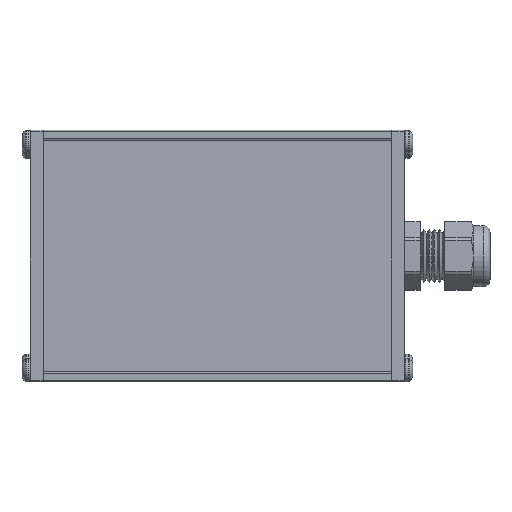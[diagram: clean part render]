
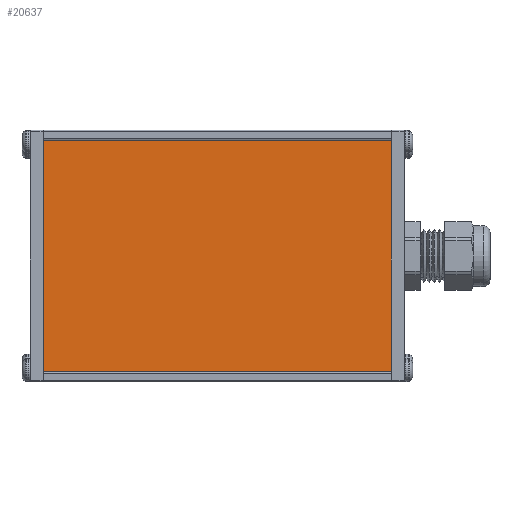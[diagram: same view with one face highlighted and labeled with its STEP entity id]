
A CAD part, top view. The second image highlights one B-rep face of the part: STEP entity #20637.
In plain terms, the highlighted planar face has unit normal (0, 0, 1) as drawn and (0, 1, 0) by its records, which use the part's own axes.
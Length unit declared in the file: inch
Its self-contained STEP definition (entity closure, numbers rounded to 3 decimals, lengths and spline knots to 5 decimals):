
#98 = CARTESIAN_POINT ( 'NONE',  ( -1.6875, 0.03, 1.1705 ) ) ;
#510 = CARTESIAN_POINT ( 'NONE',  ( 1.6875, 0.03, -1.1705 ) ) ;
#3554 = VERTEX_POINT ( 'NONE', #24460 ) ;
#3713 = ORIENTED_EDGE ( 'NONE', *, *, #25162, .T. ) ;
#3755 = CARTESIAN_POINT ( 'NONE',  ( -1.6875, 0.03, 1.1705 ) ) ;
#3820 = CARTESIAN_POINT ( 'NONE',  ( -1.6875, 0.03, -1.1705 ) ) ;
#4446 = CARTESIAN_POINT ( 'NONE',  ( -1.6875, 0.03, 1.1705 ) ) ;
#7691 = VERTEX_POINT ( 'NONE', #3755 ) ;
#9343 = LINE ( 'NONE', #3820, #19972 ) ;
#10187 = VERTEX_POINT ( 'NONE', #25951 ) ;
#10630 = VECTOR ( 'NONE', #16781, 39.37008 ) ;
#11263 = DIRECTION ( 'NONE',  ( 0., 0., 1. ) ) ;
#11272 = LINE ( 'NONE', #4446, #10630 ) ;
#12177 = VECTOR ( 'NONE', #16835, 39.37008 ) ;
#12527 = CARTESIAN_POINT ( 'NONE',  ( 1.6875, 0.03, 1.1705 ) ) ;
#14464 = ORIENTED_EDGE ( 'NONE', *, *, #18575, .T. ) ;
#14953 = EDGE_CURVE ( 'NONE', #10187, #7691, #22155, .T. ) ;
#15349 = VERTEX_POINT ( 'NONE', #12527 ) ;
#16501 = AXIS2_PLACEMENT_3D ( 'NONE', #98, #22813, #24874 ) ;
#16781 = DIRECTION ( 'NONE',  ( 1., 0., 0. ) ) ;
#16835 = DIRECTION ( 'NONE',  ( 0., 0., -1. ) ) ;
#17653 = LINE ( 'NONE', #510, #12177 ) ;
#18514 = FACE_OUTER_BOUND ( 'NONE', #23684, .T. ) ;
#18575 = EDGE_CURVE ( 'NONE', #15349, #3554, #17653, .T. ) ;
#19972 = VECTOR ( 'NONE', #20315, 39.37008 ) ;
#20315 = DIRECTION ( 'NONE',  ( -1., 0., 0. ) ) ;
#20637 = ADVANCED_FACE ( 'NONE', ( #18514 ), #24608, .T. ) ;
#21969 = ORIENTED_EDGE ( 'NONE', *, *, #14953, .T. ) ;
#22155 = LINE ( 'NONE', #25605, #24426 ) ;
#22813 = DIRECTION ( 'NONE',  ( 0., 1., 0. ) ) ;
#22879 = ORIENTED_EDGE ( 'NONE', *, *, #25256, .T. ) ;
#23684 = EDGE_LOOP ( 'NONE', ( #21969, #22879, #14464, #3713 ) ) ;
#24426 = VECTOR ( 'NONE', #11263, 39.37008 ) ;
#24460 = CARTESIAN_POINT ( 'NONE',  ( 1.6875, 0.03, -1.1705 ) ) ;
#24608 = PLANE ( 'NONE',  #16501 ) ;
#24874 = DIRECTION ( 'NONE',  ( 0., 0., 1. ) ) ;
#25162 = EDGE_CURVE ( 'NONE', #3554, #10187, #9343, .T. ) ;
#25256 = EDGE_CURVE ( 'NONE', #7691, #15349, #11272, .T. ) ;
#25605 = CARTESIAN_POINT ( 'NONE',  ( -1.6875, 0.03, -1.1705 ) ) ;
#25951 = CARTESIAN_POINT ( 'NONE',  ( -1.6875, 0.03, -1.1705 ) ) ;
